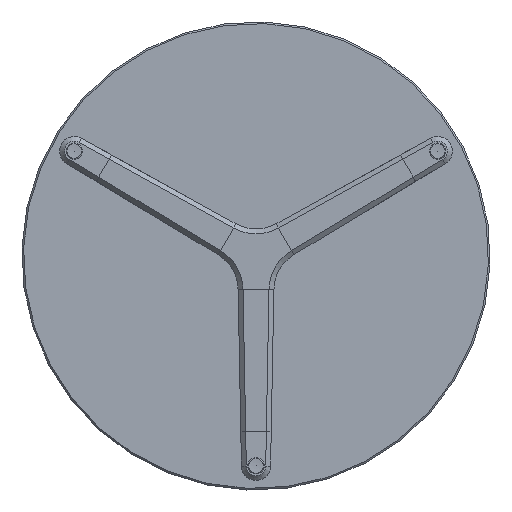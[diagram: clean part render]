
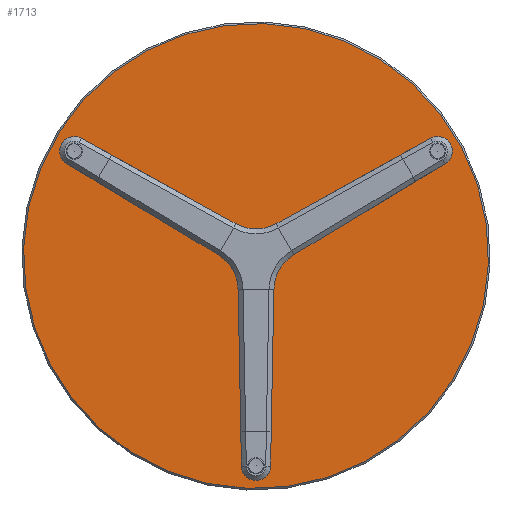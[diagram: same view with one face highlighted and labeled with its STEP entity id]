
A CAD part, front view. The second image highlights one B-rep face of the part: STEP entity #1713.
In plain terms, the highlighted planar face has unit normal (0, -1, 0).
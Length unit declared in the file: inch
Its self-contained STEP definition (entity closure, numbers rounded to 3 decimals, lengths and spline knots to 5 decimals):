
#330=PLANE('',#2135);
#430=FACE_OUTER_BOUND('',#547,.T.);
#547=EDGE_LOOP('',(#1560));
#834=CIRCLE('',#2131,8.9375);
#961=VERTEX_POINT('',#3586);
#1161=EDGE_CURVE('',#961,#961,#834,.T.);
#1560=ORIENTED_EDGE('',*,*,#1161,.F.);
#1713=ADVANCED_FACE('',(#430),#330,.F.);
#2131=AXIS2_PLACEMENT_3D('',#3588,#2652,#2653);
#2135=AXIS2_PLACEMENT_3D('',#3595,#2661,#2662);
#2652=DIRECTION('center_axis',(0.,1.,0.));
#2653=DIRECTION('ref_axis',(1.,0.,0.));
#2661=DIRECTION('center_axis',(0.,1.,0.));
#2662=DIRECTION('ref_axis',(0.,0.,1.));
#3586=CARTESIAN_POINT('',(-8.9375,0.,0.));
#3588=CARTESIAN_POINT('Origin',(0.,0.,0.));
#3595=CARTESIAN_POINT('Origin',(0.,0.,0.));
